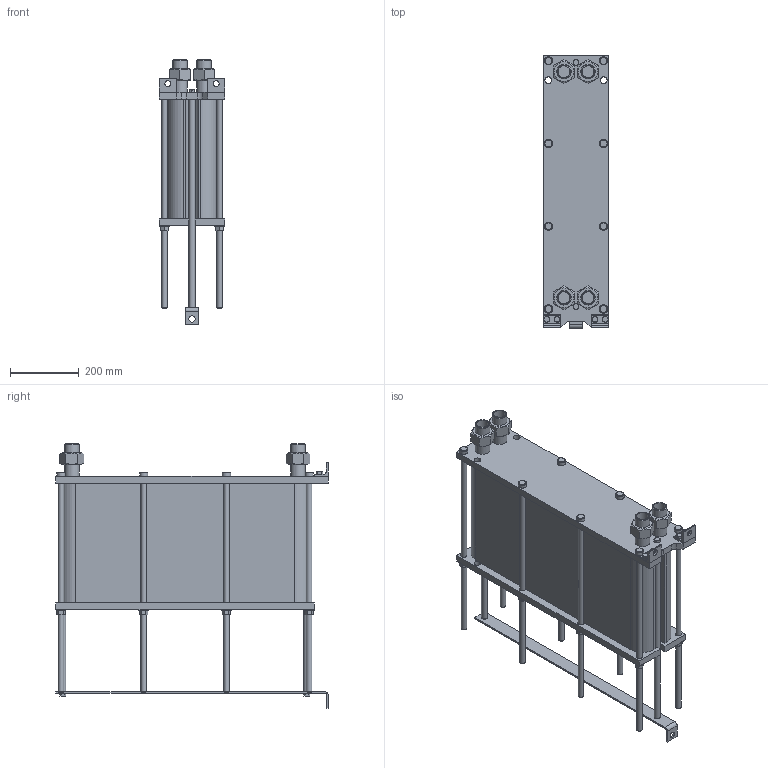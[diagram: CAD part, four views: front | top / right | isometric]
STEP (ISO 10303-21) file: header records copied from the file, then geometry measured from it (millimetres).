
FILE_DESCRIPTION(/* description */ (''),/* implementation_level */ '2;1');
FILE_NAME(/* name */ 'C:\Users\zhuro\Desktop\ENCO\TO\ЭН-008\ЭН-0,5-008-112-1.stp',/* time_stamp */ '2022-06-06T10:56:03+03:00',/* author */ ('zhuro'),/* organization */ (''),/* preprocessor_version */ 'ST-DEVELOPER v18.1',/* originating_system */ 'Autodesk Inventor 2022',/* authorisation */ '');
FILE_SCHEMA (('AUTOMOTIVE_DESIGN { 1 0 10303 214 3 1 1 }'));
Length unit declared in the file: millimetre
Products named in the file (1): ЭН-0,5-008-112-1
Bounding box: 190 x 790 x 766.6 mm (x, y, z)
Volume: 42413730.5 mm3; surface area: 2123030.8 mm2
Topology: 40 solids, 40 shells, 428 faces, 924 edges, 606 vertices
Faces by surface type: plane 273, cylinder 109, cone 40, torus 6
Full cylindrical faces by diameter (mm): 12 x6, 14 x2, 16 x20, 17 x8, 18 x19, 20 x5, 24 x8, 28 x8, 34.3 x8, 42.3 x8
Entity records: 15843 total; most frequent: CARTESIAN_POINT 5991, DIRECTION 1984, ORIENTED_EDGE 1848, EDGE_CURVE 924, AXIS2_PLACEMENT_3D 715, VERTEX_POINT 606, LINE 554, VECTOR 554
